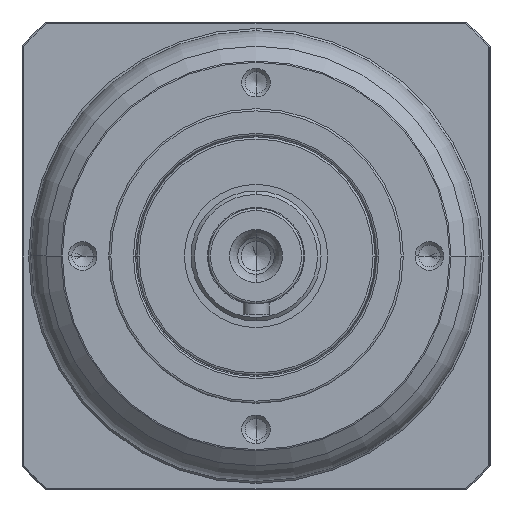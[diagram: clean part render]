
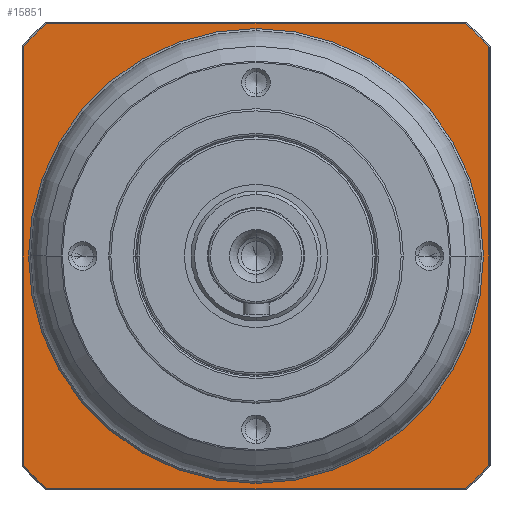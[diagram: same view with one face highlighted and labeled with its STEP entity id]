
A CAD part, left-side view. The second image highlights one B-rep face of the part: STEP entity #15851.
In plain terms, the highlighted planar face has unit normal (-1, 0, 0) as drawn and (0, 0, -1) by its records, which use the part's own axes.
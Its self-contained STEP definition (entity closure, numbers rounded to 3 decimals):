
#14745=CARTESIAN_POINT('',(0.,0.,
2.5));
#14746=DIRECTION('',(0.,0.,-1.));
#14747=DIRECTION('',(0.,-1.,0.));
#14748=AXIS2_PLACEMENT_3D('',#14745,#14746,#14747);
#14750=CARTESIAN_POINT('',(0.,0.,2.5));
#14751=DIRECTION('',(0.,0.,-1.));
#14752=DIRECTION('',(0.,1.,0.));
#14753=AXIS2_PLACEMENT_3D('',#14750,#14751,#14752);
#14755=CARTESIAN_POINT('',(0.,0.,2.5));
#14756=DIRECTION('',(0.,0.,1.));
#14757=DIRECTION('',(-0.744,-0.668,0.));
#14758=AXIS2_PLACEMENT_3D('',#14755,#14756,#14757);
#14760=DIRECTION('',(1.,0.,0.));
#14761=VECTOR('',#14760,96.523);
#14762=CARTESIAN_POINT('',(-48.261,-53.7,
2.5));
#14763=LINE('',#14762,#14761);
#14764=CARTESIAN_POINT('',(0.,0.,2.5));
#14765=DIRECTION('',(0.,0.,1.));
#14766=DIRECTION('',(0.668,-0.744,0.));
#14767=AXIS2_PLACEMENT_3D('',#14764,#14765,#14766);
#14769=DIRECTION('',(0.,1.,0.));
#14770=VECTOR('',#14769,96.523);
#14771=CARTESIAN_POINT('',(53.7,-48.261,
2.5));
#14772=LINE('',#14771,#14770);
#14773=CARTESIAN_POINT('',(0.,0.,2.5));
#14774=DIRECTION('',(0.,0.,1.));
#14775=DIRECTION('',(0.744,0.668,0.));
#14776=AXIS2_PLACEMENT_3D('',#14773,#14774,#14775);
#14778=DIRECTION('',(-1.,0.,0.));
#14779=VECTOR('',#14778,96.523);
#14780=CARTESIAN_POINT('',(48.261,53.7,2.5));
#14781=LINE('',#14780,#14779);
#14782=CARTESIAN_POINT('',(0.,0.,2.5));
#14783=DIRECTION('',(0.,0.,1.));
#14784=DIRECTION('',(-0.668,0.744,0.));
#14785=AXIS2_PLACEMENT_3D('',#14782,#14783,#14784);
#14787=DIRECTION('',(0.,-1.,0.));
#14788=VECTOR('',#14787,96.523);
#14789=CARTESIAN_POINT('',(-53.7,48.261,
2.5));
#14790=LINE('',#14789,#14788);
#15508=CARTESIAN_POINT('',(0.,-52.5,2.5));
#15509=CARTESIAN_POINT('',(0.,52.5,
2.5));
#15510=VERTEX_POINT('',#15508);
#15511=VERTEX_POINT('',#15509);
#15580=CARTESIAN_POINT('',(-53.7,-48.261,2.5));
#15581=CARTESIAN_POINT('',(-48.261,-53.7,2.5));
#15582=VERTEX_POINT('',#15580);
#15583=VERTEX_POINT('',#15581);
#15588=CARTESIAN_POINT('',(48.261,-53.7,
2.5));
#15589=VERTEX_POINT('',#15588);
#15592=CARTESIAN_POINT('',(53.7,-48.261,2.5));
#15593=VERTEX_POINT('',#15592);
#15596=CARTESIAN_POINT('',(53.7,48.261,2.5));
#15597=VERTEX_POINT('',#15596);
#15600=CARTESIAN_POINT('',(48.261,53.7,2.5));
#15601=VERTEX_POINT('',#15600);
#15604=CARTESIAN_POINT('',(-48.261,53.7,
2.5));
#15605=VERTEX_POINT('',#15604);
#15610=CARTESIAN_POINT('',(-53.7,48.261,2.5));
#15611=VERTEX_POINT('',#15610);
#15823=CARTESIAN_POINT('',(0.,0.,2.5));
#15824=DIRECTION('',(0.,0.,1.));
#15825=DIRECTION('',(0.,1.,0.));
#15826=AXIS2_PLACEMENT_3D('',#15823,#15824,#15825);
#15827=PLANE('',#15826);
#15829=ORIENTED_EDGE('',*,*,#15828,.T.);
#15831=ORIENTED_EDGE('',*,*,#15830,.T.);
#15833=ORIENTED_EDGE('',*,*,#15832,.T.);
#15835=ORIENTED_EDGE('',*,*,#15834,.T.);
#15837=ORIENTED_EDGE('',*,*,#15836,.T.);
#15839=ORIENTED_EDGE('',*,*,#15838,.T.);
#15841=ORIENTED_EDGE('',*,*,#15840,.T.);
#15843=ORIENTED_EDGE('',*,*,#15842,.T.);
#15844=EDGE_LOOP('',(#15829,#15831,#15833,#15835,#15837,#15839,#15841,#15843));
#15845=FACE_OUTER_BOUND('',#15844,.F.);
#15847=ORIENTED_EDGE('',*,*,#15846,.T.);
#15848=ORIENTED_EDGE('',*,*,#15813,.T.);
#15849=EDGE_LOOP('',(#15847,#15848));
#15850=FACE_BOUND('',#15849,.F.);
#15851=ADVANCED_FACE('',(#15845,#15850),#15827,.F.);
#14749=CIRCLE('',#14748,52.5);
#14754=CIRCLE('',#14753,52.5);
#14759=CIRCLE('',#14758,72.2);
#14768=CIRCLE('',#14767,72.2);
#14777=CIRCLE('',#14776,72.2);
#14786=CIRCLE('',#14785,72.2);
#15813=EDGE_CURVE('',#15511,#15510,#14754,.T.);
#15828=EDGE_CURVE('',#15582,#15583,#14759,.T.);
#15830=EDGE_CURVE('',#15583,#15589,#14763,.T.);
#15832=EDGE_CURVE('',#15589,#15593,#14768,.T.);
#15834=EDGE_CURVE('',#15593,#15597,#14772,.T.);
#15836=EDGE_CURVE('',#15597,#15601,#14777,.T.);
#15838=EDGE_CURVE('',#15601,#15605,#14781,.T.);
#15840=EDGE_CURVE('',#15605,#15611,#14786,.T.);
#15842=EDGE_CURVE('',#15611,#15582,#14790,.T.);
#15846=EDGE_CURVE('',#15510,#15511,#14749,.T.);
